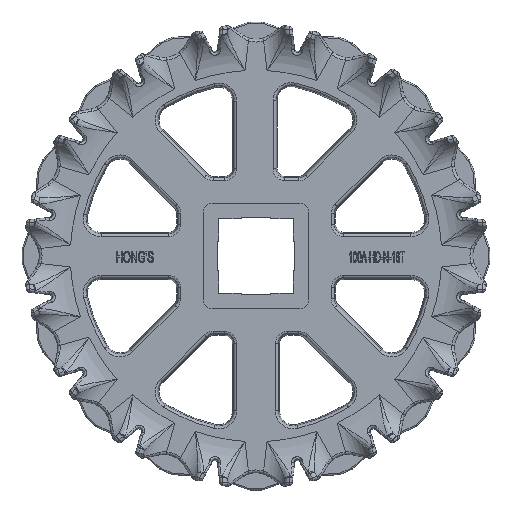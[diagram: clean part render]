
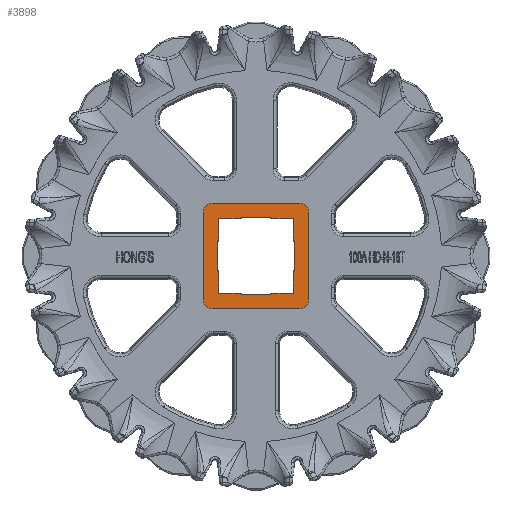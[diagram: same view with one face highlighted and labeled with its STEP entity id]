
A CAD part, top view. The second image highlights one B-rep face of the part: STEP entity #3898.
In plain terms, the highlighted planar face has unit normal (0, 0, 1).
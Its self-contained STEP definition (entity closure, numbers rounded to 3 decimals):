
#3898=ADVANCED_FACE('',(#9972,#9973),#5970,.T.);
#5970=PLANE('',#32703);
#6424=CIRCLE('',#32699,5.);
#6425=CIRCLE('',#32700,5.);
#6426=CIRCLE('',#32701,5.);
#6427=CIRCLE('',#32702,5.);
#9972=FACE_BOUND('',#10043,.T.);
#9973=FACE_BOUND('',#10044,.T.);
#10043=EDGE_LOOP('',(#12680,#12681,#12682,#12683,#12684,#12685,#12686,#12687,
#12688,#12689,#12690,#12691,#12692,#12693,#12694,#12695,#12696,#12697,#12698,
#12699));
#10044=EDGE_LOOP('',(#12700,#12701,#12702,#12703,#12704,#12705,#12706,#12707));
#12680=ORIENTED_EDGE('',*,*,#25312,.F.);
#12681=ORIENTED_EDGE('',*,*,#25313,.F.);
#12682=ORIENTED_EDGE('',*,*,#25314,.F.);
#12683=ORIENTED_EDGE('',*,*,#25315,.F.);
#12684=ORIENTED_EDGE('',*,*,#25316,.T.);
#12685=ORIENTED_EDGE('',*,*,#25317,.F.);
#12686=ORIENTED_EDGE('',*,*,#25318,.F.);
#12687=ORIENTED_EDGE('',*,*,#25319,.T.);
#12688=ORIENTED_EDGE('',*,*,#25320,.F.);
#12689=ORIENTED_EDGE('',*,*,#25321,.T.);
#12690=ORIENTED_EDGE('',*,*,#25322,.F.);
#12691=ORIENTED_EDGE('',*,*,#25323,.F.);
#12692=ORIENTED_EDGE('',*,*,#25324,.T.);
#12693=ORIENTED_EDGE('',*,*,#25325,.F.);
#12694=ORIENTED_EDGE('',*,*,#25326,.T.);
#12695=ORIENTED_EDGE('',*,*,#25327,.F.);
#12696=ORIENTED_EDGE('',*,*,#25328,.F.);
#12697=ORIENTED_EDGE('',*,*,#25329,.T.);
#12698=ORIENTED_EDGE('',*,*,#25145,.F.);
#12699=ORIENTED_EDGE('',*,*,#25330,.T.);
#12700=ORIENTED_EDGE('',*,*,#25331,.F.);
#12701=ORIENTED_EDGE('',*,*,#25332,.T.);
#12702=ORIENTED_EDGE('',*,*,#25333,.F.);
#12703=ORIENTED_EDGE('',*,*,#25334,.T.);
#12704=ORIENTED_EDGE('',*,*,#25310,.F.);
#12705=ORIENTED_EDGE('',*,*,#25335,.T.);
#12706=ORIENTED_EDGE('',*,*,#25336,.F.);
#12707=ORIENTED_EDGE('',*,*,#25337,.T.);
#22282=VERTEX_POINT('',#44503);
#22284=VERTEX_POINT('',#44507);
#22444=VERTEX_POINT('',#44940);
#22445=VERTEX_POINT('',#44942);
#22446=VERTEX_POINT('',#44946);
#22447=VERTEX_POINT('',#44947);
#22448=VERTEX_POINT('',#44949);
#22449=VERTEX_POINT('',#44951);
#22450=VERTEX_POINT('',#44953);
#22451=VERTEX_POINT('',#44955);
#22452=VERTEX_POINT('',#44957);
#22453=VERTEX_POINT('',#44959);
#22454=VERTEX_POINT('',#44961);
#22455=VERTEX_POINT('',#44963);
#22456=VERTEX_POINT('',#44965);
#22457=VERTEX_POINT('',#44967);
#22458=VERTEX_POINT('',#44969);
#22459=VERTEX_POINT('',#44971);
#22460=VERTEX_POINT('',#44973);
#22461=VERTEX_POINT('',#44975);
#22462=VERTEX_POINT('',#44977);
#22463=VERTEX_POINT('',#44979);
#22464=VERTEX_POINT('',#44983);
#22465=VERTEX_POINT('',#44984);
#22466=VERTEX_POINT('',#44986);
#22467=VERTEX_POINT('',#44988);
#22468=VERTEX_POINT('',#44991);
#22469=VERTEX_POINT('',#44993);
#25145=EDGE_CURVE('',#22284,#22282,#29851,.T.);
#25310=EDGE_CURVE('',#22444,#22445,#29937,.T.);
#25312=EDGE_CURVE('',#22446,#22447,#29939,.T.);
#25313=EDGE_CURVE('',#22448,#22446,#29940,.T.);
#25314=EDGE_CURVE('',#22449,#22448,#29941,.T.);
#25315=EDGE_CURVE('',#22450,#22449,#29942,.T.);
#25316=EDGE_CURVE('',#22450,#22451,#29943,.T.);
#25317=EDGE_CURVE('',#22452,#22451,#29944,.T.);
#25318=EDGE_CURVE('',#22453,#22452,#29945,.T.);
#25319=EDGE_CURVE('',#22453,#22454,#29946,.T.);
#25320=EDGE_CURVE('',#22455,#22454,#29947,.T.);
#25321=EDGE_CURVE('',#22455,#22456,#29948,.T.);
#25322=EDGE_CURVE('',#22457,#22456,#29949,.T.);
#25323=EDGE_CURVE('',#22458,#22457,#29950,.T.);
#25324=EDGE_CURVE('',#22458,#22459,#29951,.T.);
#25325=EDGE_CURVE('',#22460,#22459,#29952,.T.);
#25326=EDGE_CURVE('',#22460,#22461,#29953,.T.);
#25327=EDGE_CURVE('',#22462,#22461,#29954,.T.);
#25328=EDGE_CURVE('',#22463,#22462,#29955,.T.);
#25329=EDGE_CURVE('',#22463,#22282,#29956,.T.);
#25330=EDGE_CURVE('',#22284,#22447,#29957,.T.);
#25331=EDGE_CURVE('',#22464,#22465,#29958,.T.);
#25332=EDGE_CURVE('',#22464,#22466,#6424,.T.);
#25333=EDGE_CURVE('',#22467,#22466,#29959,.T.);
#25334=EDGE_CURVE('',#22467,#22445,#6425,.T.);
#25335=EDGE_CURVE('',#22444,#22468,#6426,.T.);
#25336=EDGE_CURVE('',#22469,#22468,#29960,.T.);
#25337=EDGE_CURVE('',#22469,#22465,#6427,.T.);
#29851=LINE('',#44508,#31252);
#29937=LINE('',#44941,#31338);
#29939=LINE('',#44945,#31340);
#29940=LINE('',#44948,#31341);
#29941=LINE('',#44950,#31342);
#29942=LINE('',#44952,#31343);
#29943=LINE('',#44954,#31344);
#29944=LINE('',#44956,#31345);
#29945=LINE('',#44958,#31346);
#29946=LINE('',#44960,#31347);
#29947=LINE('',#44962,#31348);
#29948=LINE('',#44964,#31349);
#29949=LINE('',#44966,#31350);
#29950=LINE('',#44968,#31351);
#29951=LINE('',#44970,#31352);
#29952=LINE('',#44972,#31353);
#29953=LINE('',#44974,#31354);
#29954=LINE('',#44976,#31355);
#29955=LINE('',#44978,#31356);
#29956=LINE('',#44980,#31357);
#29957=LINE('',#44981,#31358);
#29958=LINE('',#44982,#31359);
#29959=LINE('',#44987,#31360);
#29960=LINE('',#44992,#31361);
#31252=VECTOR('',#35862,1.);
#31338=VECTOR('',#36066,1.);
#31340=VECTOR('',#36070,1.);
#31341=VECTOR('',#36071,1.);
#31342=VECTOR('',#36072,1.);
#31343=VECTOR('',#36073,1.);
#31344=VECTOR('',#36074,1.);
#31345=VECTOR('',#36075,1.);
#31346=VECTOR('',#36076,1.);
#31347=VECTOR('',#36077,1.);
#31348=VECTOR('',#36078,1.);
#31349=VECTOR('',#36079,1.);
#31350=VECTOR('',#36080,1.);
#31351=VECTOR('',#36081,1.);
#31352=VECTOR('',#36082,1.);
#31353=VECTOR('',#36083,1.);
#31354=VECTOR('',#36084,1.);
#31355=VECTOR('',#36085,1.);
#31356=VECTOR('',#36086,1.);
#31357=VECTOR('',#36087,1.);
#31358=VECTOR('',#36088,1.);
#31359=VECTOR('',#36089,1.);
#31360=VECTOR('',#36092,1.);
#31361=VECTOR('',#36097,1.);
#32699=AXIS2_PLACEMENT_3D('',#44985,#36090,#36091);
#32700=AXIS2_PLACEMENT_3D('',#44989,#36093,#36094);
#32701=AXIS2_PLACEMENT_3D('',#44990,#36095,#36096);
#32702=AXIS2_PLACEMENT_3D('',#44994,#36098,#36099);
#32703=AXIS2_PLACEMENT_3D('',#44995,#36100,#36101);
#35862=DIRECTION('',(1.,0.,0.));
#36066=DIRECTION('',(-1.,0.,0.));
#36070=DIRECTION('',(1.,0.,0.));
#36071=DIRECTION('',(0.,-1.,0.));
#36072=DIRECTION('',(1.,0.,0.));
#36073=DIRECTION('',(0.,-1.,0.));
#36074=DIRECTION('',(1.,0.,0.));
#36075=DIRECTION('',(0.,-1.,0.));
#36076=DIRECTION('',(-1.,0.,0.));
#36077=DIRECTION('',(0.,1.,0.));
#36078=DIRECTION('',(-1.,0.,0.));
#36079=DIRECTION('',(0.,-1.,0.));
#36080=DIRECTION('',(-1.,0.,0.));
#36081=DIRECTION('',(0.,1.,0.));
#36082=DIRECTION('',(1.,0.,0.));
#36083=DIRECTION('',(0.,1.,0.));
#36084=DIRECTION('',(-1.,0.,0.));
#36085=DIRECTION('',(0.,1.,0.));
#36086=DIRECTION('',(1.,0.,0.));
#36087=DIRECTION('',(0.,-1.,0.));
#36088=DIRECTION('',(0.,1.,0.));
#36089=DIRECTION('',(1.,0.,0.));
#36090=DIRECTION('',(0.,0.,1.));
#36091=DIRECTION('',(1.,0.,0.));
#36092=DIRECTION('',(0.,1.,0.));
#36093=DIRECTION('',(0.,0.,1.));
#36094=DIRECTION('',(1.,0.,0.));
#36095=DIRECTION('',(0.,0.,1.));
#36096=DIRECTION('',(1.,0.,0.));
#36097=DIRECTION('',(0.,-1.,0.));
#36098=DIRECTION('',(0.,0.,1.));
#36099=DIRECTION('',(1.,0.,0.));
#36100=DIRECTION('',(0.,0.,1.));
#36101=DIRECTION('',(-0.195,-0.981,0.));
#44503=CARTESIAN_POINT('',(8.,-21.052,19.05));
#44507=CARTESIAN_POINT('',(-8.,-21.052,19.05));
#44508=CARTESIAN_POINT('',(0.,-21.052,19.05));
#44940=CARTESIAN_POINT('',(23.669,-28.669,19.05));
#44941=CARTESIAN_POINT('',(0.,-28.669,19.05));
#44942=CARTESIAN_POINT('',(-23.669,-28.669,19.05));
#44945=CARTESIAN_POINT('',(0.,-20.252,19.05));
#44946=CARTESIAN_POINT('',(-20.252,-20.252,19.05));
#44947=CARTESIAN_POINT('',(-8.,-20.252,19.05));
#44948=CARTESIAN_POINT('',(-20.252,0.,19.05));
#44949=CARTESIAN_POINT('',(-20.252,-8.,19.05));
#44950=CARTESIAN_POINT('',(0.,-8.,19.05));
#44951=CARTESIAN_POINT('',(-21.052,-8.,19.05));
#44952=CARTESIAN_POINT('',(-21.052,0.,19.05));
#44953=CARTESIAN_POINT('',(-21.052,8.,19.05));
#44954=CARTESIAN_POINT('',(0.,8.,19.05));
#44955=CARTESIAN_POINT('',(-20.252,8.,19.05));
#44956=CARTESIAN_POINT('',(-20.252,0.,19.05));
#44957=CARTESIAN_POINT('',(-20.252,20.252,19.05));
#44958=CARTESIAN_POINT('',(0.,20.252,19.05));
#44959=CARTESIAN_POINT('',(-8.,20.252,19.05));
#44960=CARTESIAN_POINT('',(-8.,0.,19.05));
#44961=CARTESIAN_POINT('',(-8.,21.052,19.05));
#44962=CARTESIAN_POINT('',(0.,21.052,19.05));
#44963=CARTESIAN_POINT('',(8.,21.052,19.05));
#44964=CARTESIAN_POINT('',(8.,0.,19.05));
#44965=CARTESIAN_POINT('',(8.,20.252,19.05));
#44966=CARTESIAN_POINT('',(0.,20.252,19.05));
#44967=CARTESIAN_POINT('',(20.252,20.252,19.05));
#44968=CARTESIAN_POINT('',(20.252,0.,19.05));
#44969=CARTESIAN_POINT('',(20.252,8.,19.05));
#44970=CARTESIAN_POINT('',(0.,8.,19.05));
#44971=CARTESIAN_POINT('',(21.052,8.,19.05));
#44972=CARTESIAN_POINT('',(21.052,0.,19.05));
#44973=CARTESIAN_POINT('',(21.052,-8.,19.05));
#44974=CARTESIAN_POINT('',(0.,-8.,19.05));
#44975=CARTESIAN_POINT('',(20.252,-8.,19.05));
#44976=CARTESIAN_POINT('',(20.252,0.,19.05));
#44977=CARTESIAN_POINT('',(20.252,-20.252,19.05));
#44978=CARTESIAN_POINT('',(0.,-20.252,19.05));
#44979=CARTESIAN_POINT('',(8.,-20.252,19.05));
#44980=CARTESIAN_POINT('',(8.,0.,19.05));
#44981=CARTESIAN_POINT('',(-8.,0.,19.05));
#44982=CARTESIAN_POINT('',(0.,28.669,19.05));
#44983=CARTESIAN_POINT('',(-23.669,28.669,19.05));
#44984=CARTESIAN_POINT('',(23.669,28.669,19.05));
#44985=CARTESIAN_POINT('',(-23.669,23.669,19.05));
#44986=CARTESIAN_POINT('',(-28.669,23.669,19.05));
#44987=CARTESIAN_POINT('',(-28.669,0.,19.05));
#44988=CARTESIAN_POINT('',(-28.669,-23.669,19.05));
#44989=CARTESIAN_POINT('',(-23.669,-23.669,19.05));
#44990=CARTESIAN_POINT('',(23.669,-23.669,19.05));
#44991=CARTESIAN_POINT('',(28.669,-23.669,19.05));
#44992=CARTESIAN_POINT('',(28.669,0.,19.05));
#44993=CARTESIAN_POINT('',(28.669,23.669,19.05));
#44994=CARTESIAN_POINT('',(23.669,23.669,19.05));
#44995=CARTESIAN_POINT('',(0.,0.,19.05));
